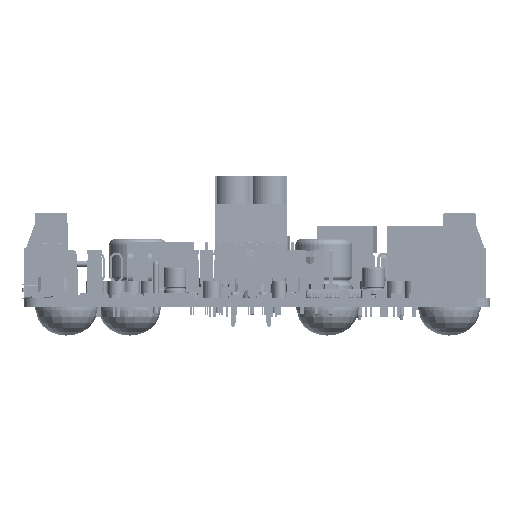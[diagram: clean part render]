
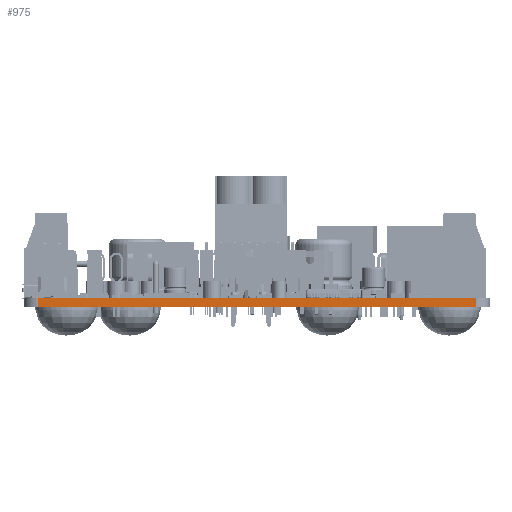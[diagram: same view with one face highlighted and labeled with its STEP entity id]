
A CAD part, left-side view. The second image highlights one B-rep face of the part: STEP entity #975.
In plain terms, the highlighted planar face has unit normal (-1, 0, 0).
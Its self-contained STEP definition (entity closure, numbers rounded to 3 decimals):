
#948 = VERTEX_POINT('',#949);
#949 = CARTESIAN_POINT('',(0.,2.54,1.575));
#956 = EDGE_CURVE('',#957,#948,#959,.T.);
#957 = VERTEX_POINT('',#958);
#958 = CARTESIAN_POINT('',(0.,2.54,0.));
#959 = LINE('',#960,#961);
#960 = CARTESIAN_POINT('',(0.,2.54,0.));
#961 = VECTOR('',#962,1.);
#962 = DIRECTION('',(0.,0.,1.));
#975 = ADVANCED_FACE('',(#976),#1001,.T.);
#976 = FACE_BOUND('',#977,.T.);
#977 = EDGE_LOOP('',(#978,#979,#987,#995));
#978 = ORIENTED_EDGE('',*,*,#956,.T.);
#979 = ORIENTED_EDGE('',*,*,#980,.T.);
#980 = EDGE_CURVE('',#948,#981,#983,.T.);
#981 = VERTEX_POINT('',#982);
#982 = CARTESIAN_POINT('',(0.,80.01,1.575));
#983 = LINE('',#984,#985);
#984 = CARTESIAN_POINT('',(0.,2.54,1.575));
#985 = VECTOR('',#986,1.);
#986 = DIRECTION('',(0.,1.,0.));
#987 = ORIENTED_EDGE('',*,*,#988,.F.);
#988 = EDGE_CURVE('',#989,#981,#991,.T.);
#989 = VERTEX_POINT('',#990);
#990 = CARTESIAN_POINT('',(0.,80.01,0.));
#991 = LINE('',#992,#993);
#992 = CARTESIAN_POINT('',(0.,80.01,0.));
#993 = VECTOR('',#994,1.);
#994 = DIRECTION('',(0.,0.,1.));
#995 = ORIENTED_EDGE('',*,*,#996,.F.);
#996 = EDGE_CURVE('',#957,#989,#997,.T.);
#997 = LINE('',#998,#999);
#998 = CARTESIAN_POINT('',(0.,2.54,0.));
#999 = VECTOR('',#1000,1.);
#1000 = DIRECTION('',(0.,1.,0.));
#1001 = PLANE('',#1002);
#1002 = AXIS2_PLACEMENT_3D('',#1003,#1004,#1005);
#1003 = CARTESIAN_POINT('',(0.,2.54,0.));
#1004 = DIRECTION('',(-1.,0.,0.));
#1005 = DIRECTION('',(0.,1.,0.));
